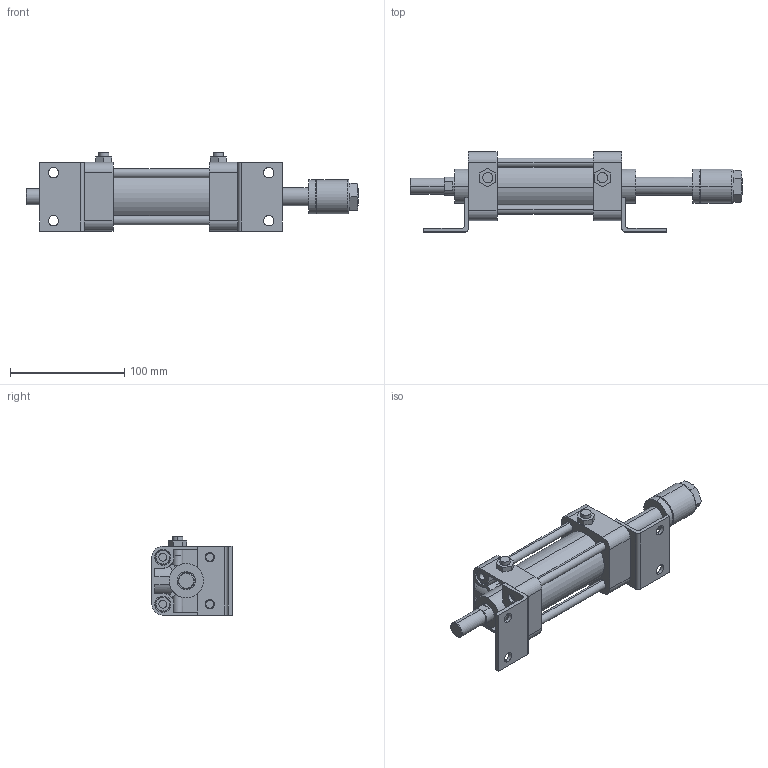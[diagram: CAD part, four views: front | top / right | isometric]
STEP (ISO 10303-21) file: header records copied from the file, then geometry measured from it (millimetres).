
FILE_DESCRIPTION (( 'STEP AP203' ), '1' );
FILE_NAME ('KGA7-40#-50-L.STEP', '2016-04-14T07:47:59', ( '' ), ( '' ), 'SwSTEP 2.0', 'SolidWorks 2014', '' );
FILE_SCHEMA (( 'CONFIG_CONTROL_DESIGN' ));
Length unit declared in the file: millimetre
Products named in the file (9): K-40-L; K#7-40-50-After; KGA7-40-Turn; KGA7-40#-50-L; KGLH2-40-50
Assembly tree (19 placements, depth 2):
  KGA7-40#-50-L
    K#7-40-50-After
    KGLH2-40-50
    (unnamed)
    (unnamed)  x4
    (unnamed)  x8
    K-40-L  x2
    KGA7-40-Turn
    (unnamed)
Bounding box: 290 x 70 x 68.3 mm (x, y, z)
Volume: 370591.5 mm3; surface area: 113662.8 mm2
Topology: 19 solids, 24 shells, 421 faces, 977 edges, 623 vertices
Faces by surface type: plane 179, cylinder 168, torus 46, cone 28
Entity records: 10706 total; most frequent: CARTESIAN_POINT 2122, DIRECTION 1605, ORIENTED_EDGE 1466, EDGE_CURVE 733, AXIS2_PLACEMENT_3D 613, VERTEX_POINT 477, LINE 379, VECTOR 379
